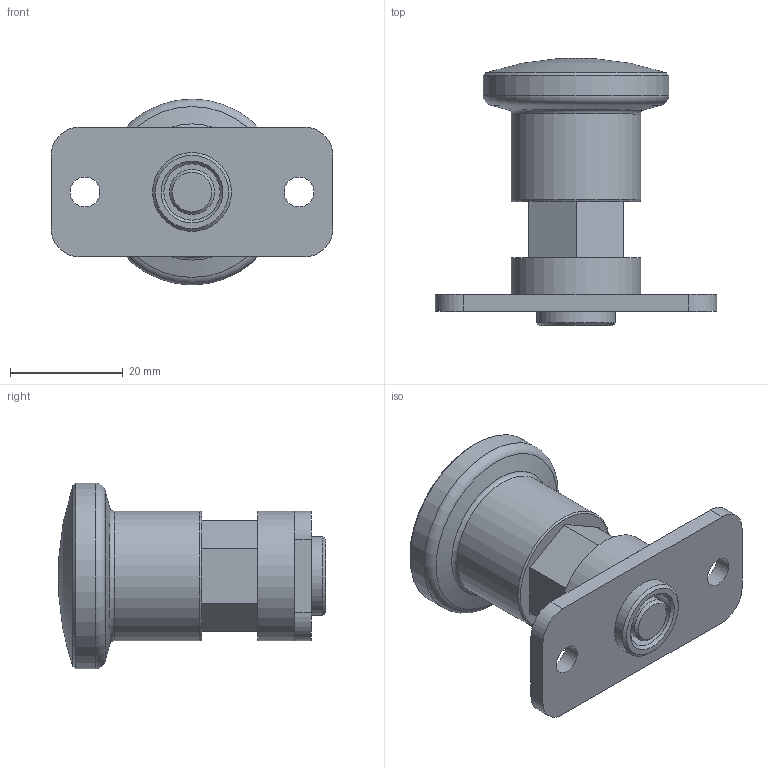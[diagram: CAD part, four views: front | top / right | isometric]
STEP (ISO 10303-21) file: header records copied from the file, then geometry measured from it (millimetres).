
FILE_DESCRIPTION( ( 'STEP AP203' ), '1' );
FILE_NAME( 'C:/Temp/Ganter_Step_05_03_2020/data/3_1/gn822_9/gn822_9_bn/Stainless Steel-Mini indexing plunger GN 822.9-8-10-BN (activated).stp', '2020-03-12T09:24:48', ( 'License CC BY-ND 4.0' ), ( 'CADENAS' ), ' ', 'PARTsolutions', ' ' );
FILE_SCHEMA( ( 'CONFIG_CONTROL_DESIGN' ) );
Length unit declared in the file: millimetre
Products named in the file (3): Stainless Steel-Mini indexing plunger GN 822.9-8-10-BN (activated); _Stainless Steel-Mini indexing plunger GN 822.9-8-10-BN (deactivated)_1; _Stainless Steel-Mini indexing plunger GN 822.9-8-10-BN (unbetaetigt)_2
Assembly tree (2 placements, depth 2):
  Stainless Steel-Mini indexing plunger GN 822.9-8-10-BN (activated)
    _Stainless Steel-Mini indexing plunger GN 822.9-8-10-BN (deactivated)_1
    _Stainless Steel-Mini indexing plunger GN 822.9-8-10-BN (unbetaetigt)_2
Bounding box: 50 x 47.42 x 33 mm (x, y, z)
Volume: 19291.4 mm3; surface area: 11391.8 mm2
Topology: 2 solids, 2 shells, 68 faces, 158 edges, 101 vertices
Faces by surface type: plane 35, cylinder 21, cone 8, torus 3, sphere 1
Full cylindrical faces by diameter (mm): 5.3 x2, 7.5 x2, 8 x1, 10 x2, 14 x1, 23 x2, 33 x1
Entity records: 2038 total; most frequent: CARTESIAN_POINT 453, DIRECTION 316, ORIENTED_EDGE 264, EDGE_CURVE 132, AXIS2_PLACEMENT_3D 125, EDGE_LOOP 104, VERTEX_POINT 98, FACE_OUTER_BOUND 83
